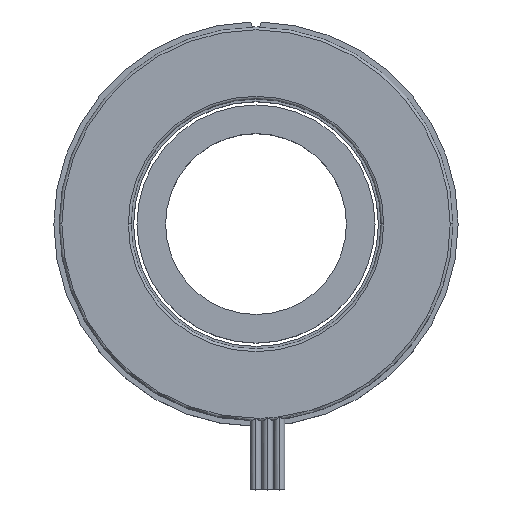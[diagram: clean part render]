
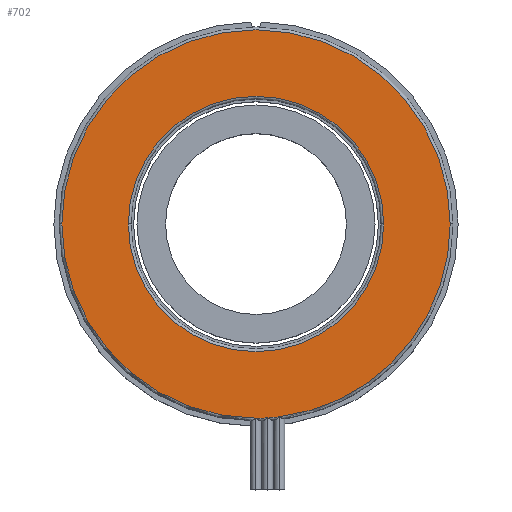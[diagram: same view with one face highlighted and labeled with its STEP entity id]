
A CAD part, top view. The second image highlights one B-rep face of the part: STEP entity #702.
In plain terms, the highlighted planar face has unit normal (0, 0, 1).
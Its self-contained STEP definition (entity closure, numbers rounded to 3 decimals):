
#11 = CARTESIAN_POINT ( 'NONE',  ( -18.25, 0., 11. ) ) ;
#22 = EDGE_CURVE ( 'NONE', #586, #1009, #1630, .T. ) ;
#25 = VERTEX_POINT ( 'NONE', #71 ) ;
#49 = AXIS2_PLACEMENT_3D ( 'NONE', #1089, #1338, #1474 ) ;
#65 = DIRECTION ( 'NONE',  ( 0., 0., 1. ) ) ;
#71 = CARTESIAN_POINT ( 'NONE',  ( 12., 0., 11. ) ) ;
#90 = DIRECTION ( 'NONE',  ( 1., 0., 0. ) ) ;
#95 = DIRECTION ( 'NONE',  ( 1., 0., 0. ) ) ;
#99 = EDGE_CURVE ( 'NONE', #1009, #448, #606, .T. ) ;
#136 = DIRECTION ( 'NONE',  ( 1., 0., 0. ) ) ;
#179 = CIRCLE ( 'NONE', #49, 18.25 ) ;
#182 = ORIENTED_EDGE ( 'NONE', *, *, #1663, .T. ) ;
#207 = CARTESIAN_POINT ( 'NONE',  ( 0., 0., 11. ) ) ;
#212 = VERTEX_POINT ( 'NONE', #1164 ) ;
#232 = DIRECTION ( 'NONE',  ( 0., 0., -1. ) ) ;
#243 = VERTEX_POINT ( 'NONE', #11 ) ;
#252 = DIRECTION ( 'NONE',  ( 0., 0., -1. ) ) ;
#261 = CIRCLE ( 'NONE', #1443, 18.25 ) ;
#280 = EDGE_CURVE ( 'NONE', #448, #243, #261, .T. ) ;
#384 = DIRECTION ( 'NONE',  ( 1., 0., 0. ) ) ;
#448 = VERTEX_POINT ( 'NONE', #1083 ) ;
#488 = CARTESIAN_POINT ( 'NONE',  ( 0., 0., 11. ) ) ;
#501 = EDGE_LOOP ( 'NONE', ( #623, #938 ) ) ;
#527 = EDGE_CURVE ( 'NONE', #1354, #586, #179, .T. ) ;
#559 = ORIENTED_EDGE ( 'NONE', *, *, #280, .T. ) ;
#586 = VERTEX_POINT ( 'NONE', #681 ) ;
#592 = DIRECTION ( 'NONE',  ( 1., 0., 0. ) ) ;
#606 = CIRCLE ( 'NONE', #1050, 18.25 ) ;
#623 = ORIENTED_EDGE ( 'NONE', *, *, #910, .T. ) ;
#647 = AXIS2_PLACEMENT_3D ( 'NONE', #796, #232, #660 ) ;
#660 = DIRECTION ( 'NONE',  ( 1., 0., 0. ) ) ;
#669 = CARTESIAN_POINT ( 'NONE',  ( 0., 0., 11. ) ) ;
#671 = EDGE_LOOP ( 'NONE', ( #1668, #1446, #1563, #559, #182 ) ) ;
#681 = CARTESIAN_POINT ( 'NONE',  ( 1.1, -18.217, 11. ) ) ;
#702 = ADVANCED_FACE ( 'NONE', ( #1249, #730 ), #1400, .T. ) ;
#705 = CARTESIAN_POINT ( 'NONE',  ( 2.2, -18.117, 11. ) ) ;
#730 = FACE_BOUND ( 'NONE', #501, .T. ) ;
#771 = DIRECTION ( 'NONE',  ( 0., 0., 1. ) ) ;
#796 = CARTESIAN_POINT ( 'NONE',  ( 0., 0., 11. ) ) ;
#811 = EDGE_CURVE ( 'NONE', #212, #25, #1390, .T. ) ;
#872 = AXIS2_PLACEMENT_3D ( 'NONE', #669, #252, #384 ) ;
#875 = AXIS2_PLACEMENT_3D ( 'NONE', #488, #1014, #95 ) ;
#910 = EDGE_CURVE ( 'NONE', #25, #212, #1310, .T. ) ;
#938 = ORIENTED_EDGE ( 'NONE', *, *, #811, .T. ) ;
#981 = DIRECTION ( 'NONE',  ( 1., 0., 0. ) ) ;
#1005 = CARTESIAN_POINT ( 'NONE',  ( 0., 0., 11. ) ) ;
#1009 = VERTEX_POINT ( 'NONE', #705 ) ;
#1014 = DIRECTION ( 'NONE',  ( 0., 0., 1. ) ) ;
#1050 = AXIS2_PLACEMENT_3D ( 'NONE', #1242, #65, #981 ) ;
#1074 = CARTESIAN_POINT ( 'NONE',  ( 0., -18.25, 11. ) ) ;
#1083 = CARTESIAN_POINT ( 'NONE',  ( 18.25, 0., 11. ) ) ;
#1089 = CARTESIAN_POINT ( 'NONE',  ( 0., 0., 11. ) ) ;
#1125 = DIRECTION ( 'NONE',  ( 0., 0., 1. ) ) ;
#1164 = CARTESIAN_POINT ( 'NONE',  ( -12., 0., 11. ) ) ;
#1232 = CIRCLE ( 'NONE', #1666, 18.25 ) ;
#1242 = CARTESIAN_POINT ( 'NONE',  ( 0., 0., 11. ) ) ;
#1249 = FACE_OUTER_BOUND ( 'NONE', #671, .T. ) ;
#1264 = DIRECTION ( 'NONE',  ( 0., 0., 1. ) ) ;
#1310 = CIRCLE ( 'NONE', #872, 12. ) ;
#1338 = DIRECTION ( 'NONE',  ( 0., 0., 1. ) ) ;
#1354 = VERTEX_POINT ( 'NONE', #1074 ) ;
#1390 = CIRCLE ( 'NONE', #647, 12. ) ;
#1400 = PLANE ( 'NONE',  #875 ) ;
#1443 = AXIS2_PLACEMENT_3D ( 'NONE', #1560, #771, #136 ) ;
#1446 = ORIENTED_EDGE ( 'NONE', *, *, #22, .T. ) ;
#1474 = DIRECTION ( 'NONE',  ( 1., 0., 0. ) ) ;
#1560 = CARTESIAN_POINT ( 'NONE',  ( 0., 0., 11. ) ) ;
#1563 = ORIENTED_EDGE ( 'NONE', *, *, #99, .T. ) ;
#1570 = AXIS2_PLACEMENT_3D ( 'NONE', #207, #1125, #592 ) ;
#1630 = CIRCLE ( 'NONE', #1570, 18.25 ) ;
#1663 = EDGE_CURVE ( 'NONE', #243, #1354, #1232, .T. ) ;
#1666 = AXIS2_PLACEMENT_3D ( 'NONE', #1005, #1264, #90 ) ;
#1668 = ORIENTED_EDGE ( 'NONE', *, *, #527, .T. ) ;
